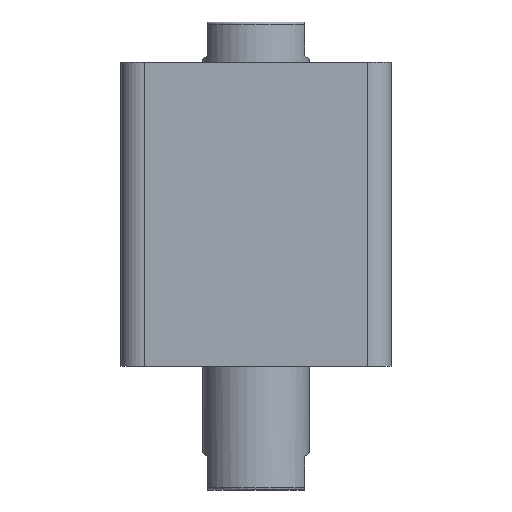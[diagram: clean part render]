
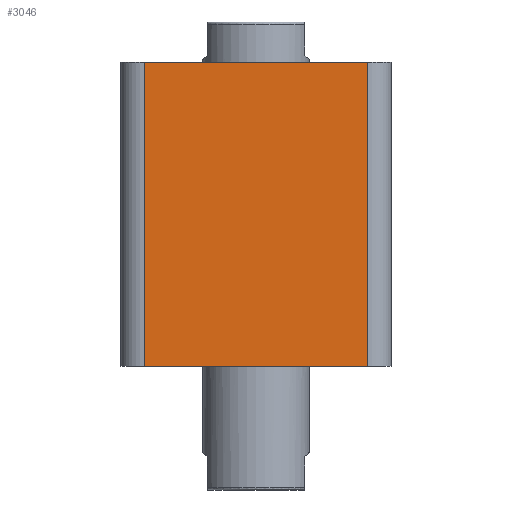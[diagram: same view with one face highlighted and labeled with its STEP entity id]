
A CAD part, front view. The second image highlights one B-rep face of the part: STEP entity #3046.
In plain terms, the highlighted planar face has unit normal (0, -1, 0).
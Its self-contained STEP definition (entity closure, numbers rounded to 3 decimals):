
#19 = DIRECTION ( 'NONE',  ( 0., 0., -1. ) ) ;
#26 = CARTESIAN_POINT ( 'NONE',  ( -47., -57., 128. ) ) ;
#501 = EDGE_CURVE ( 'NONE', #1327, #1326, #2311, .T. ) ;
#652 = EDGE_CURVE ( 'NONE', #1327, #1321, #2518, .T. ) ;
#656 = EDGE_CURVE ( 'NONE', #3027, #1321, #2513, .T. ) ;
#672 = EDGE_CURVE ( 'NONE', #1326, #3027, #960, .T. ) ;
#810 = AXIS2_PLACEMENT_3D ( 'NONE', #2611, #2616, #2617 ) ;
#960 = LINE ( 'NONE', #1677, #962 ) ;
#962 = VECTOR ( 'NONE', #1678, 1000. ) ;
#1008 = FACE_OUTER_BOUND ( 'NONE', #2241, .T. ) ;
#1321 = VERTEX_POINT ( 'NONE', #1737 ) ;
#1326 = VERTEX_POINT ( 'NONE', #1740 ) ;
#1327 = VERTEX_POINT ( 'NONE', #1741 ) ;
#1629 = CARTESIAN_POINT ( 'NONE',  ( -57., -57., 128. ) ) ;
#1630 = DIRECTION ( 'NONE',  ( 1., 0., 0. ) ) ;
#1642 = CARTESIAN_POINT ( 'NONE',  ( 47., -57., 128. ) ) ;
#1646 = DIRECTION ( 'NONE',  ( 0., 0., 1. ) ) ;
#1677 = CARTESIAN_POINT ( 'NONE',  ( -57., -57., 0. ) ) ;
#1678 = DIRECTION ( 'NONE',  ( 1., 0., 0. ) ) ;
#1737 = CARTESIAN_POINT ( 'NONE',  ( 47., -57., 128. ) ) ;
#1740 = CARTESIAN_POINT ( 'NONE',  ( -47., -57., 0. ) ) ;
#1741 = CARTESIAN_POINT ( 'NONE',  ( -47., -57., 128. ) ) ;
#1807 = ORIENTED_EDGE ( 'NONE', *, *, #656, .T. ) ;
#1812 = ORIENTED_EDGE ( 'NONE', *, *, #501, .T. ) ;
#1813 = ORIENTED_EDGE ( 'NONE', *, *, #652, .F. ) ;
#1817 = ORIENTED_EDGE ( 'NONE', *, *, #672, .T. ) ;
#2241 = EDGE_LOOP ( 'NONE', ( #1817, #1807, #1813, #1812 ) ) ;
#2311 = LINE ( 'NONE', #26, #2314 ) ;
#2314 = VECTOR ( 'NONE', #19, 1000. ) ;
#2513 = LINE ( 'NONE', #1642, #2526 ) ;
#2518 = LINE ( 'NONE', #1629, #2520 ) ;
#2520 = VECTOR ( 'NONE', #1630, 1000. ) ;
#2526 = VECTOR ( 'NONE', #1646, 1000. ) ;
#2563 = CARTESIAN_POINT ( 'NONE',  ( 47., -57., 0. ) ) ;
#2611 = CARTESIAN_POINT ( 'NONE',  ( -57., -57., 128. ) ) ;
#2615 = PLANE ( 'NONE',  #810 ) ;
#2616 = DIRECTION ( 'NONE',  ( 0., 1., 0. ) ) ;
#2617 = DIRECTION ( 'NONE',  ( 0., 0., 1. ) ) ;
#3027 = VERTEX_POINT ( 'NONE', #2563 ) ;
#3046 = ADVANCED_FACE ( 'NONE', ( #1008 ), #2615, .F. ) ;
